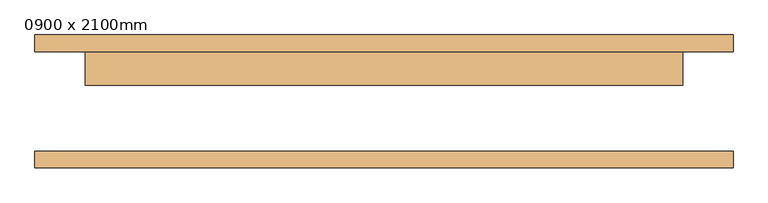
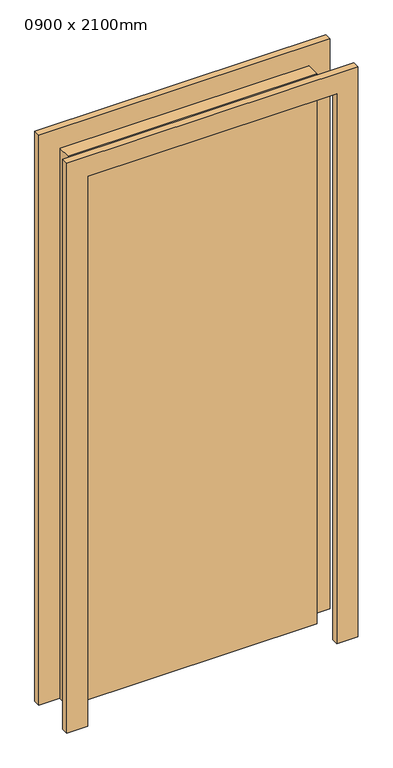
"""IFC4 building model written with IfcOpenShell, lengths in millimetres: door geometry, M_Folha única : 0900 x 2100mm."""

from ifc_helpers import new_model, si_unit, frame, origin, origin_with_axes, place, context, project, spatial, polyline, outline, extrude, source, transform, mapped, element, save


def door_0900_x_2100mm_3c692fa6(model_context):
    return source(origin(), model_context, "Body", "SweptSolid", [
        extrude(outline(polyline([(2176.0, -526.0), (0.0, -526.0), (0.0, -450.0), (2100.0, -450.0), (2100.0, 450.0), (0.0, 450.0), (0.0, 526.0), (2176.0, 526.0), (2176.0, -526.0)])), frame((0.0, 75.0, 0.0), z_axis=(0.0, 1.0, 0.0), x_axis=(0.0, 0.0, 1.0)), (0.0, 0.0, 1.0), 25.0),
        extrude(outline(polyline([(2176.0, 526.0), (2176.0, -526.0), (0.0, -526.0), (0.0, -450.0), (2100.0, -450.0), (2100.0, 450.0), (0.0, 450.0), (0.0, 526.0), (2176.0, 526.0)])), frame((0.0, -100.0, 0.0), z_axis=(0.0, 1.0, 0.0), x_axis=(0.0, 0.0, 1.0)), (0.0, 0.0, 1.0), 25.0),
        extrude(outline(polyline([(450.0, 24.0), (-450.0, 24.0), (-450.0, 75.0), (450.0, 75.0), (450.0, 24.0)])), origin_with_axes(), (0.0, 0.0, 1.0), 2100.0),
    ])


if __name__ == "__main__":
    model = new_model("IFC4")
    model_context = context("Model", 3, world=origin())
    ifc_project = project(units=[si_unit("LENGTHUNIT", "METRE", prefix="MILLI")], contexts=[model_context])
    site = spatial("IfcSite", under=ifc_project)
    building = spatial("IfcBuilding", under=site)
    placement = place(None, origin())
    door_0900_x_2100mm_shape = door_0900_x_2100mm_3c692fa6(model_context)
    element("IfcDoor", 1, ObjectType="M_Folha única : 0900 x 2100mm", at=placement, inside=building, context=model_context, shape_type="MappedRepresentation", body=[
        mapped(door_0900_x_2100mm_shape, transform((0.0, 0.0, 0.0), x_axis=(1.0, 0.0, 0.0), y_axis=(0.0, 1.0, 0.0), z_axis=(0.0, 0.0, 1.0))),
    ])
    save(model, "model.ifc")
